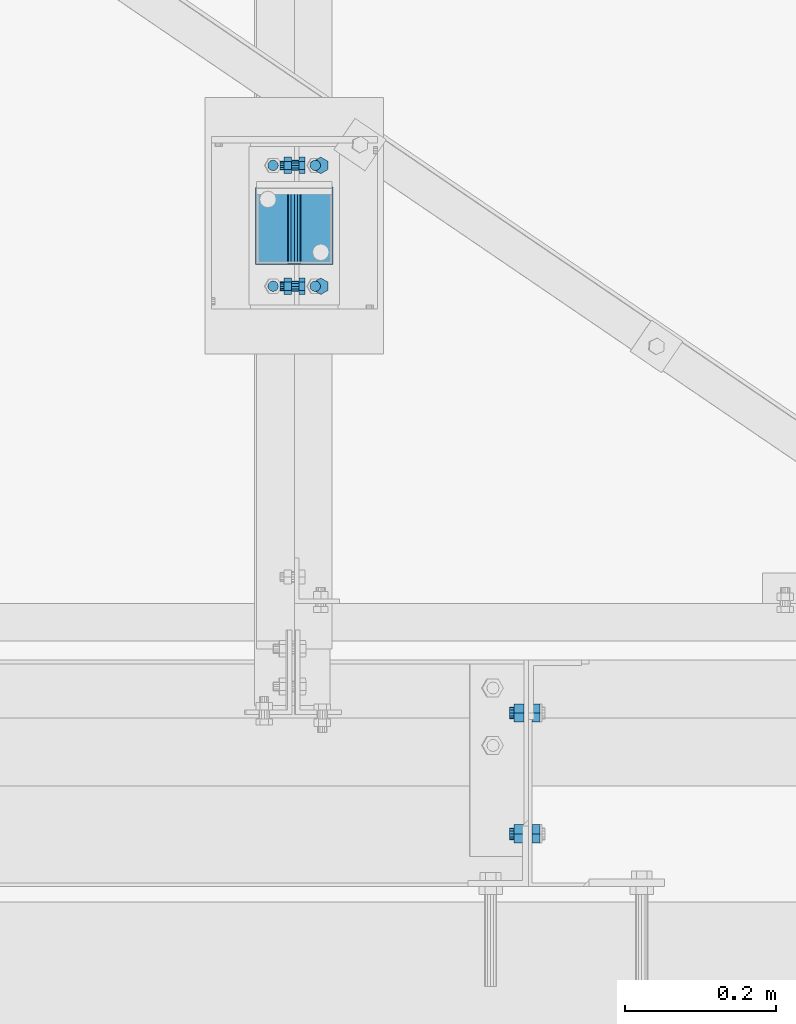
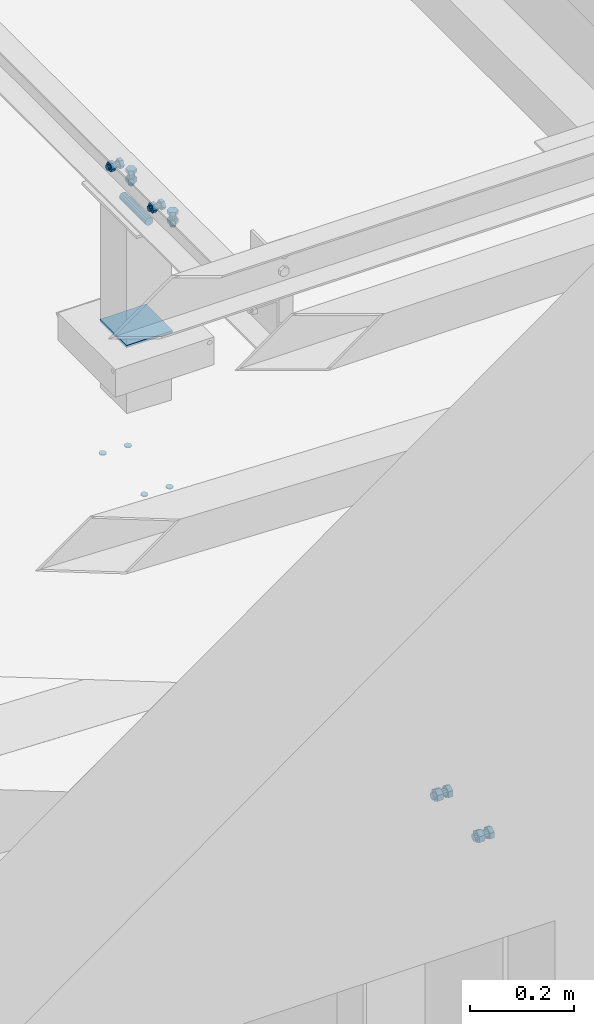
# One storey, part 339 of 3134: 6 mechanical fasteners, 4 elements without a shape of their own.
"""IFC2X3 building model written with IfcOpenShell, lengths in millimetres."""

from ifc_helpers import new_model, si_unit, frame, origin_with_axes, place, context, subcontext, project, spatial, faceted_brep, source, transform, mapped, material, type_object, element, aggregate, save


model = new_model("IFC2X3")

# Units and contexts
model_context = context("Model", 3, precision=1e-05, world=origin_with_axes())
body_context = subcontext(model_context, "Body", "Model", "MODEL_VIEW")
ifc_project = project(units=[si_unit("LENGTHUNIT", "METRE", prefix="MILLI"), si_unit("AREAUNIT", "SQUARE_METRE"), si_unit("VOLUMEUNIT", "CUBIC_METRE"), si_unit("MASSUNIT", "GRAM", prefix="KILO"), si_unit("TIMEUNIT", "SECOND"), si_unit("PLANEANGLEUNIT", "RADIAN"), si_unit("SOLIDANGLEUNIT", "STERADIAN"), si_unit("THERMODYNAMICTEMPERATUREUNIT", "DEGREE_CELSIUS"), si_unit("LUMINOUSINTENSITYUNIT", "LUMEN")], contexts=[model_context])

# Site, building, storey
site_placement = place(None, origin_with_axes())
site = spatial("IfcSite", under=ifc_project, at=site_placement, CompositionType="ELEMENT")
building_placement = place(site_placement, origin_with_axes())
building = spatial("IfcBuilding", under=site, at=building_placement, Name="Undefined", CompositionType="ELEMENT")
storey_placement = place(building_placement, origin_with_axes())
storey = spatial("IfcBuildingStorey", under=building, at=storey_placement, Name="Undefined", CompositionType="ELEMENT", Elevation=0.0)

# Assembly, mechanical fastener
assembly_1_placement = place(storey_placement, origin_with_axes())
assembly_1 = element("IfcElementAssembly", 1, at=assembly_1_placement, inside=storey, AssemblyPlace="NOTDEFINED", PredefinedType="RIGID_FRAME")
ifc_material_1 = material(Name="8.8")
mechanical_fastener_type = type_object("IfcMechanicalFastenerType", Name="Bolt assembly")
shared_shape_1 = source(origin_with_axes(), body_context, "Body", "Brep", [
    faceted_brep([(10.9696551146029, -14.0, 0.0), (5.48482755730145, -14.0, 9.5), (-5.48482755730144, -14.0, 9.5), (-10.9696551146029, -14.0, 1.34339530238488e-15), (-5.48482755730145, -14.0, -9.5), (5.48482755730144, -14.0, -9.50000000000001), (5.48482755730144, -6.0, -9.50000000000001), (-5.48482755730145, -6.0, -9.5), (-10.9696551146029, -6.0, 1.34339530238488e-15), (-5.48482755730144, -6.0, 9.5), (5.48482755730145, -6.0, 9.5), (10.9696551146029, -6.0, 0.0), (6.0, -6.0, 0.0), (5.19615242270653, -6.0, 3.00000000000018), (2.99999999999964, -6.0, 5.19615242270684), (-6.21801588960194e-13, -6.0, 6.0), (-3.00000000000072, -6.0, 5.19615242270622), (-5.19615242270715, -6.0, 2.9999999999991), (-6.0, -6.0, -1.24360317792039e-12), (-5.19615242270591, -6.0, -3.00000000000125), (-2.99999999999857, -6.0, -5.19615242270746), (1.85874342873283e-12, -6.0, -6.0), (3.00000000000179, -6.0, -5.1961524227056), (5.19615242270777, -6.0, -2.99999999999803), (5.19615242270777, 24.0, -2.99999999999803), (3.00000000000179, 24.0, -5.1961524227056), (1.85874342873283e-12, 24.0, -6.0), (-2.99999999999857, 24.0, -5.19615242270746), (-5.19615242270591, 24.0, -3.00000000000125), (-6.0, 24.0, -1.24360317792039e-12), (-5.19615242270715, 24.0, 2.9999999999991), (-3.00000000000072, 24.0, 5.19615242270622), (-6.21801588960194e-13, 24.0, 6.0), (2.99999999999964, 24.0, 5.19615242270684), (5.19615242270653, 24.0, 3.00000000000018), (6.0, 24.0, 0.0), (10.9696551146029, 6.00000000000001, 0.0), (5.48482755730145, 6.00000000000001, 9.5), (-5.48482755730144, 6.00000000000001, 9.5), (-10.9696551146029, 6.00000000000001, 1.34339530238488e-15), (-5.48482755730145, 6.00000000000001, -9.5), (5.48482755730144, 6.00000000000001, -9.50000000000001), (5.48482755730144, 16.0, -9.50000000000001), (-5.48482755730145, 16.0, -9.5), (-10.9696551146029, 16.0, 1.34339530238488e-15), (-5.48482755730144, 16.0, 9.5), (5.48482755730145, 16.0, 9.5), (10.9696551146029, 16.0, 0.0)], [[[0, 1, 2, 3, 4, 5]], [[6, 7, 8, 9, 10, 11]], [[0, 11, 10, 1]], [[1, 10, 9, 2]], [[2, 9, 8, 3]], [[3, 8, 7, 4]], [[4, 7, 6, 5]], [[5, 6, 11, 0]], [[12, 13, 14, 15, 16, 17, 18, 19, 20, 21, 22, 23]], [[24, 25, 26, 27, 28, 29, 30, 31, 32, 33, 34, 35]], [[12, 35, 34, 13]], [[13, 34, 33, 14]], [[14, 33, 32, 15]], [[15, 32, 31, 16]], [[16, 31, 30, 17]], [[17, 30, 29, 18]], [[18, 29, 28, 19]], [[19, 28, 27, 20]], [[20, 27, 26, 21]], [[21, 26, 25, 22]], [[22, 25, 24, 23]], [[23, 24, 35, 12]], [[36, 37, 38, 39, 40, 41]], [[42, 43, 44, 45, 46, 47]], [[36, 47, 46, 37]], [[37, 46, 45, 38]], [[38, 45, 44, 39]], [[39, 44, 43, 40]], [[40, 43, 42, 41]], [[41, 42, 47, 36]]]),
    faceted_brep([(7.0, -5.9, 0.0), (6.06217782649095, -5.9, 3.50000000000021), (3.49999999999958, -5.9, 6.06217782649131), (-7.25435187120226e-13, -5.9, 7.0), (-3.50000000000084, -5.9, 6.06217782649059), (-6.06217782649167, -5.9, 3.49999999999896), (-7.0, -5.9, -1.45087037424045e-12), (-6.06217782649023, -5.9, -3.50000000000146), (-3.49999999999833, -5.9, -6.06217782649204), (2.1685340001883e-12, -5.9, -7.0), (3.50000000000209, -5.9, -6.06217782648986), (6.0621778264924, -5.9, -3.4999999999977), (6.0621778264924, 0.0999999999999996, -3.4999999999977), (3.50000000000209, 0.0999999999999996, -6.06217782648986), (2.1685340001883e-12, 0.0999999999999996, -7.0), (-3.49999999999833, 0.0999999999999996, -6.06217782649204), (-6.06217782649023, 0.0999999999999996, -3.50000000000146), (-7.0, 0.0999999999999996, -1.45087037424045e-12), (-6.06217782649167, 0.0999999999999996, 3.49999999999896), (-3.50000000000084, 0.0999999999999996, 6.06217782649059), (-7.25435187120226e-13, 0.0999999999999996, 7.0), (3.49999999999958, 0.0999999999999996, 6.06217782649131), (6.06217782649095, 0.0999999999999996, 3.50000000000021), (7.0, 0.0999999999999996, 0.0), (7.0, -0.1, 0.0), (6.06217782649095, -0.1, 3.50000000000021), (3.49999999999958, -0.1, 6.06217782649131), (-7.25435187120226e-13, -0.1, 7.0), (-3.50000000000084, -0.1, 6.06217782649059), (-6.06217782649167, -0.1, 3.49999999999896), (-7.0, -0.1, -1.45087037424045e-12), (-6.06217782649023, -0.1, -3.50000000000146), (-3.49999999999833, -0.1, -6.06217782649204), (2.1685340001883e-12, -0.1, -7.0), (3.50000000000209, -0.1, -6.06217782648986), (6.0621778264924, -0.1, -3.4999999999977), (6.0621778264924, 6.00000000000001, -3.4999999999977), (3.50000000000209, 6.00000000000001, -6.06217782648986), (2.1685340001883e-12, 6.00000000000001, -7.0), (-3.49999999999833, 6.00000000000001, -6.06217782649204), (-6.06217782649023, 6.00000000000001, -3.50000000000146), (-7.0, 6.00000000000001, -1.45087037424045e-12), (-6.06217782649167, 6.00000000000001, 3.49999999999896), (-3.50000000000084, 6.00000000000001, 6.06217782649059), (-7.25435187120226e-13, 6.00000000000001, 7.0), (3.49999999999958, 6.00000000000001, 6.06217782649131), (6.06217782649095, 6.00000000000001, 3.50000000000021), (7.0, 6.00000000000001, 0.0)], [[[0, 1, 2, 3, 4, 5, 6, 7, 8, 9, 10, 11]], [[12, 13, 14, 15, 16, 17, 18, 19, 20, 21, 22, 23]], [[0, 23, 22, 1]], [[1, 22, 21, 2]], [[2, 21, 20, 3]], [[3, 20, 19, 4]], [[4, 19, 18, 5]], [[5, 18, 17, 6]], [[6, 17, 16, 7]], [[7, 16, 15, 8]], [[8, 15, 14, 9]], [[9, 14, 13, 10]], [[10, 13, 12, 11]], [[11, 12, 23, 0]], [[24, 25, 26, 27, 28, 29, 30, 31, 32, 33, 34, 35]], [[36, 37, 38, 39, 40, 41, 42, 43, 44, 45, 46, 47]], [[24, 47, 46, 25]], [[25, 46, 45, 26]], [[26, 45, 44, 27]], [[27, 44, 43, 28]], [[28, 43, 42, 29]], [[29, 42, 41, 30]], [[30, 41, 40, 31]], [[31, 40, 39, 32]], [[32, 39, 38, 33]], [[33, 38, 37, 34]], [[34, 37, 36, 35]], [[35, 36, 47, 24]]]),
])
mechanical_fastener_1_placement = place(assembly_1_placement, frame((78060.0, 570.0, 5750.0), z_axis=(-1.0, 0.0, 0.0), x_axis=(0.0, 1.0, 0.0)))
mechanical_fastener_1 = element("IfcMechanicalFastener", 2, at=mechanical_fastener_1_placement, type_object=mechanical_fastener_type, material=ifc_material_1, Name="Bolt assembly", NominalDiameter=12.0, NominalLength=30.0, context=body_context, shape_type="MappedRepresentation", body=[
    mapped(shared_shape_1, transform((0.0, 0.0, 0.0))),
    mapped(shared_shape_1, transform((160.0, 0.0, 0.0))),
])

assembly_2_placement = place(storey_placement, origin_with_axes())
assembly_2 = element("IfcElementAssembly", 3, at=assembly_2_placement, inside=storey, AssemblyPlace="NOTDEFINED", PredefinedType="RIGID_FRAME")
shared_shape_2 = source(origin_with_axes(), body_context, "Body", "Brep", [
    faceted_brep([(10.9696551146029, -14.0, 0.0), (5.48482755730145, -14.0, 9.5), (-5.48482755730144, -14.0, 9.5), (-10.9696551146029, -14.0, 1.34339530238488e-15), (-5.48482755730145, -14.0, -9.5), (5.48482755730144, -14.0, -9.50000000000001), (5.48482755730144, -6.0, -9.50000000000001), (-5.48482755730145, -6.0, -9.5), (-10.9696551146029, -6.0, 1.34339530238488e-15), (-5.48482755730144, -6.0, 9.5), (5.48482755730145, -6.0, 9.5), (10.9696551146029, -6.0, 0.0), (6.0, -6.0, 0.0), (5.19615242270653, -6.0, 3.00000000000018), (2.99999999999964, -6.0, 5.19615242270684), (-6.21801588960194e-13, -6.0, 6.0), (-3.00000000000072, -6.0, 5.19615242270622), (-5.19615242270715, -6.0, 2.9999999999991), (-6.0, -6.0, -1.24360317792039e-12), (-5.19615242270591, -6.0, -3.00000000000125), (-2.99999999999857, -6.0, -5.19615242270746), (1.85874342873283e-12, -6.0, -6.0), (3.00000000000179, -6.0, -5.1961524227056), (5.19615242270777, -6.0, -2.99999999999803), (5.19615242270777, 19.0, -2.99999999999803), (3.00000000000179, 19.0, -5.1961524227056), (1.85874342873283e-12, 19.0, -6.0), (-2.99999999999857, 19.0, -5.19615242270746), (-5.19615242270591, 19.0, -3.00000000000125), (-6.0, 19.0, -1.24360317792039e-12), (-5.19615242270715, 19.0, 2.9999999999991), (-3.00000000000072, 19.0, 5.19615242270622), (-6.21801588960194e-13, 19.0, 6.0), (2.99999999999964, 19.0, 5.19615242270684), (5.19615242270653, 19.0, 3.00000000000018), (6.0, 19.0, 0.0), (10.9696551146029, 4.00000000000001, 0.0), (5.48482755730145, 4.00000000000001, 9.5), (-5.48482755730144, 4.00000000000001, 9.5), (-10.9696551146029, 4.00000000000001, 1.34339530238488e-15), (-5.48482755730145, 4.00000000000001, -9.5), (5.48482755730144, 4.00000000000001, -9.50000000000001), (5.48482755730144, 14.0, -9.50000000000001), (-5.48482755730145, 14.0, -9.5), (-10.9696551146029, 14.0, 1.34339530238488e-15), (-5.48482755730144, 14.0, 9.5), (5.48482755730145, 14.0, 9.5), (10.9696551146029, 14.0, 0.0)], [[[0, 1, 2, 3, 4, 5]], [[6, 7, 8, 9, 10, 11]], [[0, 11, 10, 1]], [[1, 10, 9, 2]], [[2, 9, 8, 3]], [[3, 8, 7, 4]], [[4, 7, 6, 5]], [[5, 6, 11, 0]], [[12, 13, 14, 15, 16, 17, 18, 19, 20, 21, 22, 23]], [[24, 25, 26, 27, 28, 29, 30, 31, 32, 33, 34, 35]], [[12, 35, 34, 13]], [[13, 34, 33, 14]], [[14, 33, 32, 15]], [[15, 32, 31, 16]], [[16, 31, 30, 17]], [[17, 30, 29, 18]], [[18, 29, 28, 19]], [[19, 28, 27, 20]], [[20, 27, 26, 21]], [[21, 26, 25, 22]], [[22, 25, 24, 23]], [[23, 24, 35, 12]], [[36, 37, 38, 39, 40, 41]], [[42, 43, 44, 45, 46, 47]], [[36, 47, 46, 37]], [[37, 46, 45, 38]], [[38, 45, 44, 39]], [[39, 44, 43, 40]], [[40, 43, 42, 41]], [[41, 42, 47, 36]]]),
    faceted_brep([(7.0, -0.1, 0.0), (6.06217782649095, -0.1, 3.50000000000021), (3.49999999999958, -0.1, 6.06217782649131), (-7.25435187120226e-13, -0.1, 7.0), (-3.50000000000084, -0.1, 6.06217782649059), (-6.06217782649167, -0.1, 3.49999999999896), (-7.0, -0.1, -1.45087037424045e-12), (-6.06217782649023, -0.1, -3.50000000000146), (-3.49999999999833, -0.1, -6.06217782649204), (2.1685340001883e-12, -0.1, -7.0), (3.50000000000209, -0.1, -6.06217782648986), (6.0621778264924, -0.1, -3.4999999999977), (6.0621778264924, 4.00000000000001, -3.4999999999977), (3.50000000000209, 4.00000000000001, -6.06217782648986), (2.1685340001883e-12, 4.00000000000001, -7.0), (-3.49999999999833, 4.00000000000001, -6.06217782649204), (-6.06217782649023, 4.00000000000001, -3.50000000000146), (-7.0, 4.00000000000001, -1.45087037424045e-12), (-6.06217782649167, 4.00000000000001, 3.49999999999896), (-3.50000000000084, 4.00000000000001, 6.06217782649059), (-7.25435187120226e-13, 4.00000000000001, 7.0), (3.49999999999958, 4.00000000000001, 6.06217782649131), (6.06217782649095, 4.00000000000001, 3.50000000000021), (7.0, 4.00000000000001, 0.0), (7.0, -5.9, 0.0), (6.06217782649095, -5.9, 3.50000000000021), (3.49999999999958, -5.9, 6.06217782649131), (-7.25435187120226e-13, -5.9, 7.0), (-3.50000000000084, -5.9, 6.06217782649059), (-6.06217782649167, -5.9, 3.49999999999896), (-7.0, -5.9, -1.45087037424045e-12), (-6.06217782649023, -5.9, -3.50000000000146), (-3.49999999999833, -5.9, -6.06217782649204), (2.1685340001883e-12, -5.9, -7.0), (3.50000000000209, -5.9, -6.06217782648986), (6.0621778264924, -5.9, -3.4999999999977), (6.0621778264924, 0.0999999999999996, -3.4999999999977), (3.50000000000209, 0.0999999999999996, -6.06217782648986), (2.1685340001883e-12, 0.0999999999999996, -7.0), (-3.49999999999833, 0.0999999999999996, -6.06217782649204), (-6.06217782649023, 0.0999999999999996, -3.50000000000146), (-7.0, 0.0999999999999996, -1.45087037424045e-12), (-6.06217782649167, 0.0999999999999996, 3.49999999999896), (-3.50000000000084, 0.0999999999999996, 6.06217782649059), (-7.25435187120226e-13, 0.0999999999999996, 7.0), (3.49999999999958, 0.0999999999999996, 6.06217782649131), (6.06217782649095, 0.0999999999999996, 3.50000000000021), (7.0, 0.0999999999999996, 0.0)], [[[0, 1, 2, 3, 4, 5, 6, 7, 8, 9, 10, 11]], [[12, 13, 14, 15, 16, 17, 18, 19, 20, 21, 22, 23]], [[0, 23, 22, 1]], [[1, 22, 21, 2]], [[2, 21, 20, 3]], [[3, 20, 19, 4]], [[4, 19, 18, 5]], [[5, 18, 17, 6]], [[6, 17, 16, 7]], [[7, 16, 15, 8]], [[8, 15, 14, 9]], [[9, 14, 13, 10]], [[10, 13, 12, 11]], [[11, 12, 23, 0]], [[24, 25, 26, 27, 28, 29, 30, 31, 32, 33, 34, 35]], [[36, 37, 38, 39, 40, 41, 42, 43, 44, 45, 46, 47]], [[24, 47, 46, 25]], [[25, 46, 45, 26]], [[26, 45, 44, 27]], [[27, 44, 43, 28]], [[28, 43, 42, 29]], [[29, 42, 41, 30]], [[30, 41, 40, 31]], [[31, 40, 39, 32]], [[32, 39, 38, 33]], [[33, 38, 37, 34]], [[34, 37, 36, 35]], [[35, 36, 47, 24]]]),
])
mechanical_fastener_2_placement = place(assembly_2_placement, frame((78025.0, 570.0, 5785.0), z_axis=(0.0, 0.0, 1.0), x_axis=(0.0, 1.0, 0.0)))
mechanical_fastener_2 = element("IfcMechanicalFastener", 4, at=mechanical_fastener_2_placement, type_object=mechanical_fastener_type, material=ifc_material_1, Name="Bolt assembly", NominalDiameter=12.0, NominalLength=25.0, context=body_context, shape_type="MappedRepresentation", body=[
    mapped(shared_shape_2, transform((0.0, 0.0, 0.0))),
    mapped(shared_shape_2, transform((160.0, 0.0, 0.0))),
])
aggregate(assembly_2, [mechanical_fastener_2])

assembly_3_placement = place(storey_placement, origin_with_axes())
assembly_3 = element("IfcElementAssembly", 5, at=assembly_3_placement, inside=storey, AssemblyPlace="NOTDEFINED", PredefinedType="RIGID_FRAME")
shared_shape_3 = source(origin_with_axes(), body_context, "Body", "Brep", [
    faceted_brep([(7.0, 13.0000253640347, 0.0), (6.06217782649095, 13.0000253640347, 3.50000000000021), (3.49999999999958, 13.0000253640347, 6.06217782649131), (-7.25435187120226e-13, 13.0000253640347, 7.0), (-3.50000000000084, 13.0000253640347, 6.06217782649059), (-6.06217782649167, 13.0000253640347, 3.49999999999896), (-7.0, 13.0000253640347, -1.45087037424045e-12), (-6.06217782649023, 13.0000253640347, -3.50000000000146), (-3.49999999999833, 13.0000253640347, -6.06217782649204), (2.1685340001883e-12, 13.0000253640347, -7.0), (3.50000000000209, 13.0000253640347, -6.06217782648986), (6.0621778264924, 13.0000253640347, -3.4999999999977), (6.0621778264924, 15.0999999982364, -3.4999999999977), (3.50000000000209, 15.0999999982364, -6.06217782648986), (2.1685340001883e-12, 15.0999999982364, -7.0), (-3.49999999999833, 15.0999999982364, -6.06217782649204), (-6.06217782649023, 15.0999999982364, -3.50000000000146), (-7.0, 15.0999999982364, -1.45087037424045e-12), (-6.06217782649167, 15.0999999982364, 3.49999999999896), (-3.50000000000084, 15.0999999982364, 6.06217782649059), (-7.25435187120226e-13, 15.0999999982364, 7.0), (3.49999999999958, 15.0999999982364, 6.06217782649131), (6.06217782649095, 15.0999999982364, 3.50000000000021), (7.0, 15.0999999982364, 0.0)], [[[0, 1, 2, 3, 4, 5, 6, 7, 8, 9, 10, 11]], [[12, 13, 14, 15, 16, 17, 18, 19, 20, 21, 22, 23]], [[0, 23, 22, 1]], [[1, 22, 21, 2]], [[2, 21, 20, 3]], [[3, 20, 19, 4]], [[4, 19, 18, 5]], [[5, 18, 17, 6]], [[6, 17, 16, 7]], [[7, 16, 15, 8]], [[8, 15, 14, 9]], [[9, 14, 13, 10]], [[10, 13, 12, 11]], [[11, 12, 23, 0]]]),
])
mechanical_fastener_3_placement = place(assembly_3_placement, frame((77996.3602034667, 649.998364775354, 5103.14493090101), z_axis=(0.0, -1.0, 0.0), x_axis=(0.999519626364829, 0.0, -0.030992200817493)))
mechanical_fastener_3 = element("IfcMechanicalFastener", 6, at=mechanical_fastener_3_placement, type_object=mechanical_fastener_type, material=ifc_material_1, Name="Bolt assembly", NominalDiameter=12.0, NominalLength=2.0, context=body_context, shape_type="MappedRepresentation", body=[
    mapped(shared_shape_3, transform((0.0, -5.32963895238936e-10, -79.9999999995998))),
    mapped(shared_shape_3, transform((55.9999999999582, 4.54747350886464e-13, -80.0))),
    mapped(shared_shape_3, transform((0.0, 5.3114490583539e-10, 79.9999999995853))),
    mapped(shared_shape_3, transform((55.9999999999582, 4.54747350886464e-13, 80.0))),
])
aggregate(assembly_3, [mechanical_fastener_3])

# Mechanical fastener
shared_shape_4 = source(origin_with_axes(), body_context, "Body", "Brep", [
    faceted_brep([(9.0, -50.0, 0.0), (7.79422863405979, -50.0, 4.50000000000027), (4.49999999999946, -50.0, 7.79422863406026), (-9.3270238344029e-13, -50.0, 9.0), (-4.50000000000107, -50.0, 7.79422863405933), (-7.79422863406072, -50.0, 4.49999999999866), (-9.0, -50.0, -1.86540476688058e-12), (-7.79422863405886, -50.0, -4.50000000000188), (-4.49999999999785, -50.0, -7.79422863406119), (2.78811514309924e-12, -50.0, -9.0), (4.50000000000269, -50.0, -7.7942286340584), (7.79422863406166, -50.0, -4.49999999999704), (7.79422863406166, 50.1, -4.49999999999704), (4.50000000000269, 50.1, -7.7942286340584), (2.78811514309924e-12, 50.1, -9.0), (-4.49999999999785, 50.1, -7.79422863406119), (-7.79422863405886, 50.1, -4.50000000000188), (-9.0, 50.1, -1.86540476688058e-12), (-7.79422863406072, 50.1, 4.49999999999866), (-4.50000000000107, 50.1, 7.79422863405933), (-9.3270238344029e-13, 50.1, 9.0), (4.49999999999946, 50.1, 7.79422863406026), (7.79422863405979, 50.1, 4.50000000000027), (9.0, 50.1, 0.0)], [[[0, 1, 2, 3, 4, 5, 6, 7, 8, 9, 10, 11]], [[12, 13, 14, 15, 16, 17, 18, 19, 20, 21, 22, 23]], [[0, 23, 22, 1]], [[1, 22, 21, 2]], [[2, 21, 20, 3]], [[3, 20, 19, 4]], [[4, 19, 18, 5]], [[5, 18, 17, 6]], [[6, 17, 16, 7]], [[7, 16, 15, 8]], [[8, 15, 14, 9]], [[9, 14, 13, 10]], [[10, 13, 12, 11]], [[11, 12, 23, 0]]]),
])
mechanical_fastener_4_placement = place(assembly_1_placement, frame((78025.0, 650.0, 5730.0), z_axis=(-1.0, 0.0, 0.0), x_axis=(0.0, 0.0, 1.0)))
mechanical_fastener_4 = element("IfcMechanicalFastener", 7, at=mechanical_fastener_4_placement, type_object=mechanical_fastener_type, material=ifc_material_1, Name="Bolt assembly", NominalDiameter=16.0, NominalLength=100.0, context=body_context, shape_type="MappedRepresentation", body=[
    mapped(shared_shape_4, transform((0.0, 0.0, 0.0))),
])

ifc_material_2 = material(Name="6.8")
shared_shape_5 = source(origin_with_axes(), body_context, "Body", "Brep", [
    faceted_brep([(51.5, 1.36424205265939e-12, 50.0), (51.3858192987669, 1.36424205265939e-12, 50.5740251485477), (51.0606601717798, 1.36424205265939e-12, 51.0606601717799), (50.5740251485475, 1.36424205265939e-12, 51.385819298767), (-50.0000000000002, 1.36424205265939e-12, 51.5), (-50.7500000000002, 1.36424205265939e-12, 51.2990381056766), (-51.2990381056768, 1.36424205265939e-12, 50.7499999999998), (-51.5, 1.36424205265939e-12, 49.9999999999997), (-51.5, 1.36424205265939e-12, -50.0000000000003), (-51.2990381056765, 1.36424205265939e-12, -50.7500000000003), (-50.7499999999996, 1.36424205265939e-12, -51.2990381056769), (-49.9999999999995, 1.36424205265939e-12, -51.5), (50.0000000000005, 1.36424205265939e-12, -51.5), (50.7500000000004, 1.36424205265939e-12, -51.2990381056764), (51.2990381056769, 1.36424205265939e-12, -50.7499999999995), (51.5, 1.36424205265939e-12, -49.9999999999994), (51.5, 5.10000000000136, -49.9999999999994), (51.2990381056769, 5.10000000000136, -50.7499999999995), (50.7500000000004, 5.10000000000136, -51.2990381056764), (50.0000000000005, 5.10000000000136, -51.5), (-49.9999999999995, 5.10000000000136, -51.5), (-50.7499999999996, 5.10000000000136, -51.2990381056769), (-51.2990381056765, 5.10000000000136, -50.7500000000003), (-51.5, 5.10000000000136, -50.0000000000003), (-51.5, 5.10000000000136, 49.9999999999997), (-51.2990381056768, 5.10000000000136, 50.7499999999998), (-50.7500000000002, 5.10000000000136, 51.2990381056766), (-50.0000000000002, 5.10000000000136, 51.5), (50.5740251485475, 5.10000000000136, 51.385819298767), (51.0606601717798, 5.10000000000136, 51.0606601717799), (51.3858192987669, 5.10000000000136, 50.5740251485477), (51.5, 5.10000000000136, 50.0)], [[[0, 1, 2, 3, 4, 5, 6, 7, 8, 9, 10, 11, 12, 13, 14, 15]], [[16, 17, 18, 19, 20, 21, 22, 23, 24, 25, 26, 27, 28, 29, 30, 31]], [[0, 31, 30, 1]], [[1, 30, 29, 2]], [[2, 29, 28, 3]], [[3, 28, 27, 4]], [[4, 27, 26, 5]], [[5, 26, 25, 6]], [[6, 25, 24, 7]], [[7, 24, 23, 8]], [[8, 23, 22, 9]], [[9, 22, 21, 10]], [[10, 21, 20, 11]], [[11, 20, 19, 12]], [[12, 19, 18, 13]], [[13, 18, 17, 14]], [[14, 17, 16, 15]], [[15, 16, 31, 0]]]),
])
mechanical_fastener_5_placement = place(assembly_1_placement, frame((78025.0, 650.0, 5456.99), z_axis=(0.0, -1.0, 0.0), x_axis=(-1.0, 0.0, 0.0)))
mechanical_fastener_5 = element("IfcMechanicalFastener", 8, at=mechanical_fastener_5_placement, type_object=mechanical_fastener_type, material=ifc_material_2, Name="Bolt assembly", NominalDiameter=10.0, NominalLength=5.0, context=body_context, shape_type="MappedRepresentation", body=[
    mapped(shared_shape_5, transform((0.0, 0.0, 0.0))),
])

aggregate(assembly_1, [mechanical_fastener_4, mechanical_fastener_1, mechanical_fastener_5])

# Assembly, mechanical fastener
assembly_4_placement = place(storey_placement, origin_with_axes())
assembly_4 = element("IfcElementAssembly", 9, at=assembly_4_placement, inside=storey, AssemblyPlace="NOTDEFINED", PredefinedType="RIGID_FRAME")
shared_shape_6 = source(origin_with_axes(), body_context, "Body", "Brep", [
    faceted_brep([(13.856406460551, -15.0000144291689, 0.0), (6.92820323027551, -15.0000144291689, 12.0), (-6.92820323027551, -15.0000144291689, 12.0), (-13.856406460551, -15.0000144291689, 1.69692038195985e-15), (-6.92820323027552, -15.0000144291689, -12.0), (6.9282032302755, -15.0000144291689, -12.0), (6.9282032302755, -5.00001442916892, -12.0), (-6.92820323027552, -5.00001442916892, -12.0), (-13.856406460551, -5.00001442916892, 1.69692038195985e-15), (-6.92820323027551, -5.00001442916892, 12.0), (6.92820323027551, -5.00001442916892, 12.0), (13.856406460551, -5.00001442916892, 0.0), (8.0, -5.00001442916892, 0.0), (6.92820323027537, -5.00001442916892, 4.00000000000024), (3.99999999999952, -5.00001442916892, 6.92820323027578), (-8.29068785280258e-13, -5.00001442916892, 8.0), (-4.00000000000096, -5.00001442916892, 6.92820323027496), (-6.9282032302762, -5.00001442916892, 3.99999999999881), (-8.0, -5.00001442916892, -1.65813757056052e-12), (-6.92820323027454, -5.00001442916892, -4.00000000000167), (-3.99999999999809, -5.00001442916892, -6.92820323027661), (2.47832457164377e-12, -5.00001442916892, -8.0), (4.00000000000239, -5.00001442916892, -6.92820323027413), (6.92820323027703, -5.00001442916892, -3.99999999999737), (6.92820323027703, 25.0, -3.99999999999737), (4.00000000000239, 25.0, -6.92820323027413), (2.47832457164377e-12, 25.0, -8.0), (-3.99999999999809, 25.0, -6.92820323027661), (-6.92820323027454, 25.0, -4.00000000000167), (-8.0, 25.0, -1.65813757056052e-12), (-6.9282032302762, 25.0, 3.99999999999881), (-4.00000000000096, 25.0, 6.92820323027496), (-8.29068785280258e-13, 25.0, 8.0), (3.99999999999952, 25.0, 6.92820323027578), (6.92820323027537, 25.0, 4.00000000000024), (8.0, 25.0, 0.0), (13.856406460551, 5.99999999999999, 0.0), (6.92820323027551, 5.99999999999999, 12.0), (-6.92820323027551, 5.99999999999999, 12.0), (-13.856406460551, 5.99999999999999, 1.69692038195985e-15), (-6.92820323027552, 5.99999999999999, -12.0), (6.9282032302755, 5.99999999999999, -12.0), (6.9282032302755, 19.0, -12.0), (-6.92820323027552, 19.0, -12.0), (-13.856406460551, 19.0, 1.69692038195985e-15), (-6.92820323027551, 19.0, 12.0), (6.92820323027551, 19.0, 12.0), (13.856406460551, 19.0, 0.0)], [[[0, 1, 2, 3, 4, 5]], [[6, 7, 8, 9, 10, 11]], [[0, 11, 10, 1]], [[1, 10, 9, 2]], [[2, 9, 8, 3]], [[3, 8, 7, 4]], [[4, 7, 6, 5]], [[5, 6, 11, 0]], [[12, 13, 14, 15, 16, 17, 18, 19, 20, 21, 22, 23]], [[24, 25, 26, 27, 28, 29, 30, 31, 32, 33, 34, 35]], [[12, 35, 34, 13]], [[13, 34, 33, 14]], [[14, 33, 32, 15]], [[15, 32, 31, 16]], [[16, 31, 30, 17]], [[17, 30, 29, 18]], [[18, 29, 28, 19]], [[19, 28, 27, 20]], [[20, 27, 26, 21]], [[21, 26, 25, 22]], [[22, 25, 24, 23]], [[23, 24, 35, 12]], [[36, 37, 38, 39, 40, 41]], [[42, 43, 44, 45, 46, 47]], [[36, 47, 46, 37]], [[37, 46, 45, 38]], [[38, 45, 44, 39]], [[39, 44, 43, 40]], [[40, 43, 42, 41]], [[41, 42, 47, 36]]]),
    faceted_brep([(9.0, -4.90001442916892, 0.0), (7.79422863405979, -4.90001442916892, 4.50000000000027), (4.49999999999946, -4.90001442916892, 7.79422863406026), (-9.3270238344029e-13, -4.90001442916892, 9.0), (-4.50000000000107, -4.90001442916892, 7.79422863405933), (-7.79422863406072, -4.90001442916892, 4.49999999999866), (-9.0, -4.90001442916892, -1.86540476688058e-12), (-7.79422863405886, -4.90001442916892, -4.50000000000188), (-4.49999999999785, -4.90001442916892, -7.79422863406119), (2.78811514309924e-12, -4.90001442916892, -9.0), (4.50000000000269, -4.90001442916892, -7.7942286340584), (7.79422863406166, -4.90001442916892, -4.49999999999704), (7.79422863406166, 0.100000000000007, -4.49999999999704), (4.50000000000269, 0.100000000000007, -7.7942286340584), (2.78811514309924e-12, 0.100000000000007, -9.0), (-4.49999999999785, 0.100000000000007, -7.79422863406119), (-7.79422863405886, 0.100000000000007, -4.50000000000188), (-9.0, 0.100000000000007, -1.86540476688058e-12), (-7.79422863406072, 0.100000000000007, 4.49999999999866), (-4.50000000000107, 0.100000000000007, 7.79422863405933), (-9.3270238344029e-13, 0.100000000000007, 9.0), (4.49999999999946, 0.100000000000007, 7.79422863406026), (7.79422863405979, 0.100000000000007, 4.50000000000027), (9.0, 0.100000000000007, 0.0), (9.0, -0.1, 0.0), (7.79422863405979, -0.1, 4.50000000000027), (4.49999999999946, -0.1, 7.79422863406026), (-9.3270238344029e-13, -0.1, 9.0), (-4.50000000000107, -0.1, 7.79422863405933), (-7.79422863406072, -0.1, 4.49999999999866), (-9.0, -0.1, -1.86540476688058e-12), (-7.79422863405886, -0.1, -4.50000000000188), (-4.49999999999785, -0.1, -7.79422863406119), (2.78811514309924e-12, -0.1, -9.0), (4.50000000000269, -0.1, -7.7942286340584), (7.79422863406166, -0.1, -4.49999999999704), (7.79422863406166, 5.99999999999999, -4.49999999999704), (4.50000000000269, 5.99999999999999, -7.7942286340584), (2.78811514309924e-12, 5.99999999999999, -9.0), (-4.49999999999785, 5.99999999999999, -7.79422863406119), (-7.79422863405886, 5.99999999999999, -4.50000000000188), (-9.0, 5.99999999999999, -1.86540476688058e-12), (-7.79422863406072, 5.99999999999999, 4.49999999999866), (-4.50000000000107, 5.99999999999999, 7.79422863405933), (-9.3270238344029e-13, 5.99999999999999, 9.0), (4.49999999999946, 5.99999999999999, 7.79422863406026), (7.79422863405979, 5.99999999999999, 4.50000000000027), (9.0, 5.99999999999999, 0.0)], [[[0, 1, 2, 3, 4, 5, 6, 7, 8, 9, 10, 11]], [[12, 13, 14, 15, 16, 17, 18, 19, 20, 21, 22, 23]], [[0, 23, 22, 1]], [[1, 22, 21, 2]], [[2, 21, 20, 3]], [[3, 20, 19, 4]], [[4, 19, 18, 5]], [[5, 18, 17, 6]], [[6, 17, 16, 7]], [[7, 16, 15, 8]], [[8, 15, 14, 9]], [[9, 14, 13, 10]], [[10, 13, 12, 11]], [[11, 12, 23, 0]], [[24, 25, 26, 27, 28, 29, 30, 31, 32, 33, 34, 35]], [[36, 37, 38, 39, 40, 41, 42, 43, 44, 45, 46, 47]], [[24, 47, 46, 25]], [[25, 46, 45, 26]], [[26, 45, 44, 27]], [[27, 44, 43, 28]], [[28, 43, 42, 29]], [[29, 42, 41, 30]], [[30, 41, 40, 31]], [[31, 40, 39, 32]], [[32, 39, 38, 33]], [[33, 38, 37, 34]], [[34, 37, 36, 35]], [[35, 36, 47, 24]]]),
])
mechanical_fastener_6_placement = place(assembly_4_placement, frame((78335.0, -75.0, 4640.0), z_axis=(0.0, -1.0, 0.0), x_axis=(0.0, 0.0, 1.0)))
mechanical_fastener_6 = element("IfcMechanicalFastener", 10, at=mechanical_fastener_6_placement, type_object=mechanical_fastener_type, material=ifc_material_1, Name="Bolt assembly", NominalDiameter=16.0, NominalLength=30.0, context=body_context, shape_type="MappedRepresentation", body=[
    mapped(shared_shape_6, transform((0.0, -5.32963895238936e-10, -79.9999999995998))),
    mapped(shared_shape_6, transform((0.0, 5.3114490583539e-10, 79.9999999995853))),
])
aggregate(assembly_4, [mechanical_fastener_6])

save(model, "model.ifc")
